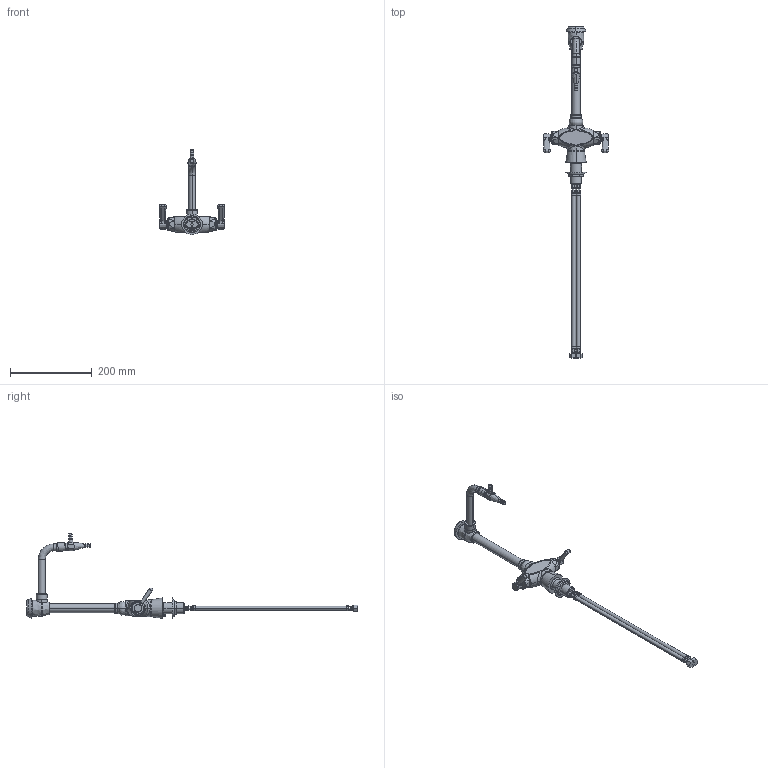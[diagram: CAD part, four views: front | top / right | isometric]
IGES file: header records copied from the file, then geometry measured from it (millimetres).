
Start section:  PTC IGES file: 930-vre17-369cp_REV103013.igs
Global section: file name: 930-vre17-369cp_REV103013.igs; native system: Creo Parametric by Parametric Technology Corporation; preprocessor: 2013050; author: SDmitruk; organization: Unknown; date: 20131030.152325; units: inch
Bounding box: 160.73 x 813.78 x 208.88 mm (x, y, z)
Surface area: 114546 mm2 (no closed solid volume)
Topology: 0 solids, 0 shells, 488 faces, 3651 edges, 4887 vertices
Faces by surface type: bspline 258, revolution 230
